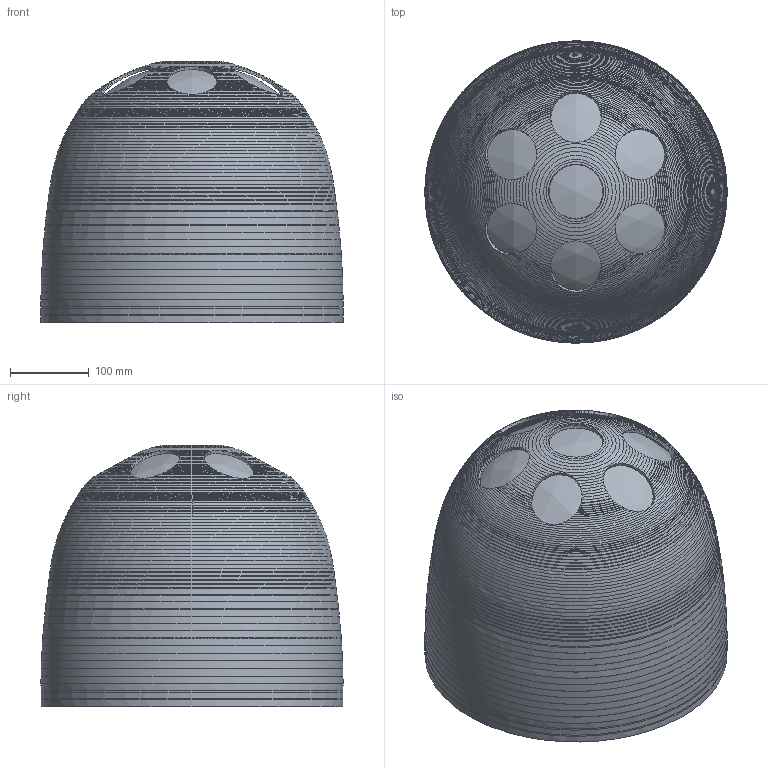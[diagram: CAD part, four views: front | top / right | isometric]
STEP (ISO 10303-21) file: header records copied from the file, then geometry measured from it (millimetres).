
FILE_DESCRIPTION(/* description */ (''),/* implementation_level */ '2;1');
FILE_NAME(/* name */ 'DEDALO.stp',/* time_stamp */ '2024-05-16T10:33:08+02:00',/* author */ (''),/* organization */ (''),/* preprocessor_version */ 'ST-DEVELOPER v19.3',/* originating_system */ 'SIEMENS PLM Software NX2212.5000',/* authorisation */ '');
FILE_SCHEMA (('AUTOMOTIVE_DESIGN { 1 0 10303 214 3 1 1 1 }'));
Length unit declared in the file: millimetre
Products named in the file (1): 006271_-
Bounding box: 383.71 x 383.63 x 332.23 mm (x, y, z)
Volume: 2261269.8 mm3; surface area: 2088750.3 mm2
Topology: 1 solids, 4 shells, 1002 faces, 2131 edges, 1150 vertices
Faces by surface type: cone 513, bspline 336, extrusion 106, sphere 43, plane 4
Entity records: 39367 total; most frequent: CARTESIAN_POINT 22989, ORIENTED_EDGE 3942, DIRECTION 2116, EDGE_CURVE 1971, B_SPLINE_CURVE_WITH_KNOTS 1346, EDGE_LOOP 1152, VERTEX_POINT 1115, AXIS2_PLACEMENT_3D 1005
